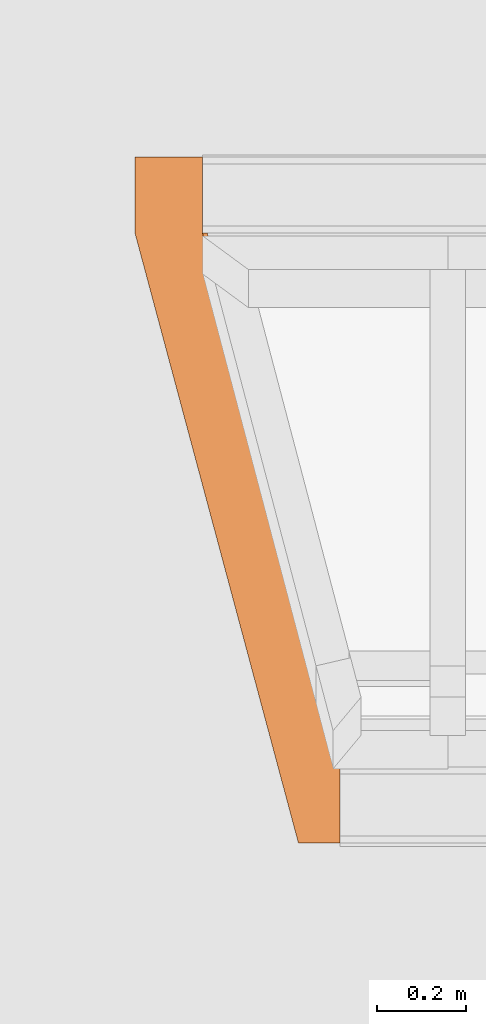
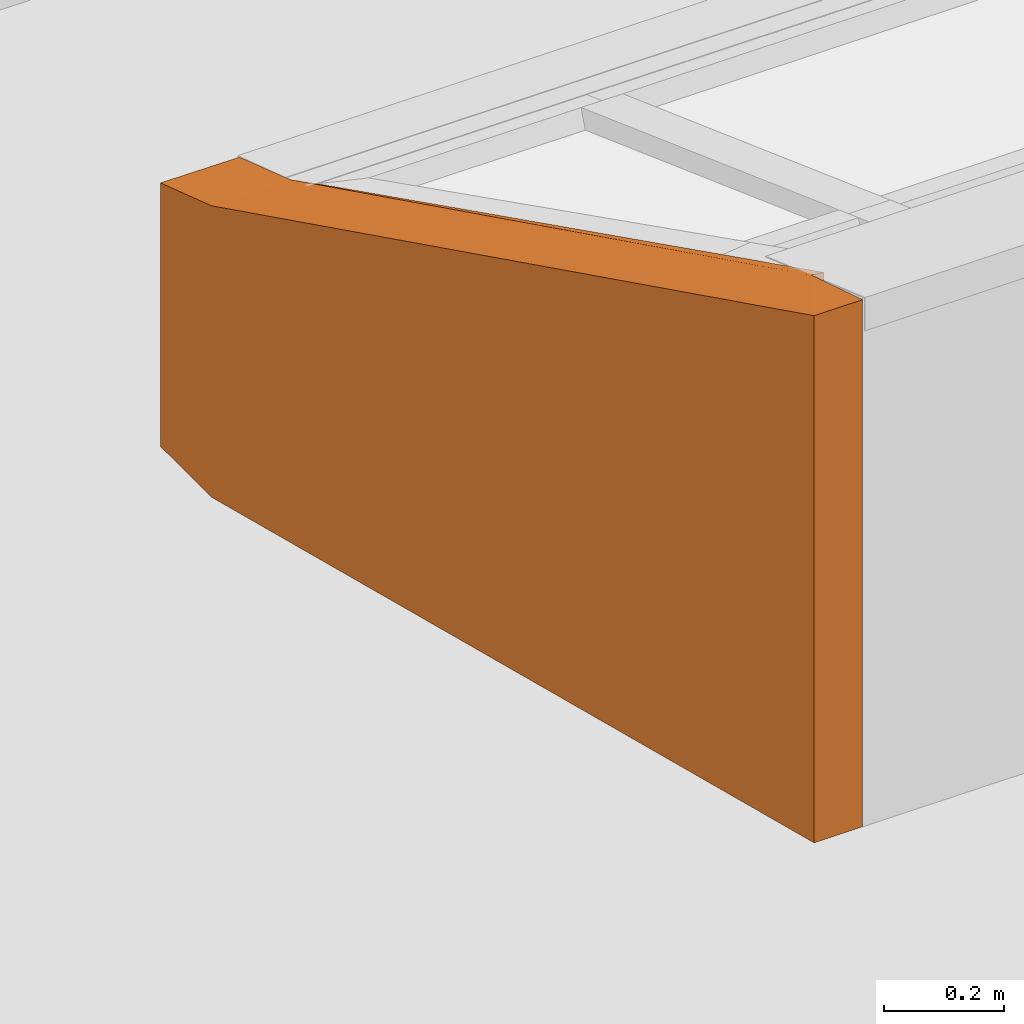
# One storey, part 15 of 20: 1 proxy.
"""IFC2X3 building model written with IfcOpenShell, lengths in millimetres."""

from ifc_helpers import new_model, entity, si_unit, converted_unit, derived_unit, money_unit, direction, frame, origin_with_axes, place, context, subcontext, project, spatial, faceted_brep, source, transform, mapped, material, type_object, type_shapes, element, save


model = new_model("IFC2X3")

# Units and contexts
model_context = context("Model", 3, precision=0.01, world=origin_with_axes(), true_north=direction((0.0, 1.0)))
plan_context = context("Plan", 3, precision=0.01, world=origin_with_axes(), true_north=direction((0.0, 1.0)))
body_context = subcontext(model_context, "Body", "Model", "MODEL_VIEW")
ifc_project = project(units=[si_unit("LENGTHUNIT", "METRE", prefix="MILLI"), si_unit("AREAUNIT", "SQUARE_METRE"), si_unit("VOLUMEUNIT", "CUBIC_METRE"), converted_unit("PLANEANGLEUNIT", "DEGREE", entity("IfcPlaneAngleMeasure", 0.0174532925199), si_unit("PLANEANGLEUNIT", "RADIAN"), dimensions=[0, 0, 0, 0, 0, 0, 0]), si_unit("SOLIDANGLEUNIT", "STERADIAN"), money_unit("EUR"), converted_unit("TIMEUNIT", "Year", entity("IfcTimeMeasure", 31556926.0), si_unit("TIMEUNIT", "SECOND"), dimensions=[0, 0, 1, 0, 0, 0, 0]), si_unit("MASSUNIT", "GRAM", prefix="KILO"), si_unit("THERMODYNAMICTEMPERATUREUNIT", "DEGREE_CELSIUS"), si_unit("LUMINOUSINTENSITYUNIT", "LUMEN"), si_unit("ENERGYUNIT", "JOULE", prefix="MEGA"), derived_unit("THERMALCONDUCTANCEUNIT", [(si_unit("POWERUNIT", "WATT"), 1), (si_unit("LENGTHUNIT", "METRE"), -1), (si_unit("THERMODYNAMICTEMPERATUREUNIT", "KELVIN"), -1)]), derived_unit("SPECIFICHEATCAPACITYUNIT", [(si_unit("ENERGYUNIT", "JOULE"), 1), (si_unit("MASSUNIT", "GRAM", prefix="KILO"), -1), (si_unit("THERMODYNAMICTEMPERATUREUNIT", "KELVIN"), -1)]), derived_unit("MASSDENSITYUNIT", [(si_unit("MASSUNIT", "GRAM", prefix="KILO"), 1), (si_unit("VOLUMEUNIT", "CUBIC_METRE"), -1)])], contexts=[model_context, plan_context])

# Site, building, storey
site_placement = place(None, origin_with_axes())
site = spatial("IfcSite", under=ifc_project, at=site_placement, Name="Site", CompositionType="ELEMENT")
building_placement = place(site_placement, origin_with_axes())
building = spatial("IfcBuilding", under=site, at=building_placement, Name="Naam gebouw", CompositionType="ELEMENT")
storey_placement = place(building_placement, frame((0.0, 0.0, 7920.0), z_axis=(0.0, 0.0, 1.0), x_axis=(1.0, 0.0, 0.0)))
storey = spatial("IfcBuildingStorey", under=building, at=storey_placement, Name="2e verdieping", CompositionType="ELEMENT", Elevation=7920.0)

# Proxy
ifc_material = material(Name="ALG - BINNENAFWERKING")
building_element_proxy_type = type_object("IfcBuildingElementProxyType", Name="ALG - BINNENAFWERKING", PredefinedType="USERDEFINED")
shared_shape = source(origin_with_axes(), body_context, "Body", "Brep", [
    faceted_brep([(-151.674835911, 0.0, 0.0), (-151.674835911, -170.000015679, 0.0), (-151.674835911, -170.000015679, 592.081900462), (-151.674835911, 0.0, 535.485499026), (0.0, 0.0, 0.0), (0.0, -170.000015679, 0.0), (10.5698879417, -170.000015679, 0.0), (332.096657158, -1369.95425439, 0.0), (308.667905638, -1369.95425439, 0.0), (308.667905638, -1539.94574511, 0.0), (215.401015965, -1539.94574511, 0.0), (215.401015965, -1539.94574511, 1070.97099805), (0.0, -170.000015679, 592.081900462), (0.0, 0.0, 534.743913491), (10.5698879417, -170.000015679, 587.840020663), (332.096657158, -1369.95425439, 1015.28052611), (308.667905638, -1369.95425439, 1017.68821331), (308.667905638, -1539.94574511, 1070.97099805)], [[[0, 1, 2, 3]], [[1, 0, 4, 5, 6, 7, 8, 9, 10]], [[2, 1, 10, 11]], [[3, 2, 12]], [[4, 0, 3, 13]], [[5, 4, 13, 12]], [[6, 5, 12, 14]], [[6, 14, 15, 7]], [[8, 7, 15, 16]], [[9, 8, 16, 17]], [[10, 9, 17, 11]], [[16, 2, 11]], [[2, 16, 12]], [[13, 3, 12]], [[14, 12, 16]], [[16, 15, 14]], [[17, 16, 11]]]),
])
type_shapes(building_element_proxy_type, [shared_shape])
proxy_placement = place(storey_placement, frame((13987.9618458, 19605.0000157, 245.0), z_axis=(0.0, 0.0, 1.0), x_axis=(1.0, 0.0, 0.0)))
element("IfcBuildingElementProxy", 1, at=proxy_placement, inside=storey, type_object=building_element_proxy_type, material=ifc_material, Name="_Massa_OMG Morph", ObjectType="Massing", context=body_context, shape_type="MappedRepresentation", body=[
    mapped(shared_shape, transform((0.0, 0.0, 0.0))),
])

save(model, "model.ifc")
